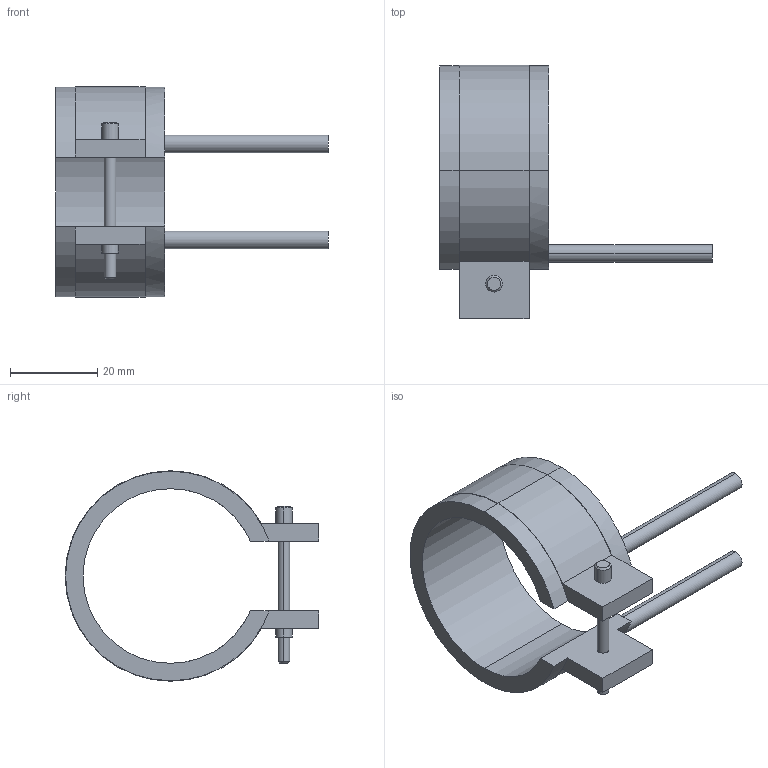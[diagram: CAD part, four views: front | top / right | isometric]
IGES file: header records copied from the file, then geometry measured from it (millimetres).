
Start section: START RECORD GO HERE.
Global section: file name: 14040025.igs; native system: DASSAULT SYSTEMES CATIA V5 R20 - www.3ds.com; preprocessor: CATIA Version 5 Release 20 ; author: Utente; organization: NB04-ASUS; date: 20210331.133348; units: millimetre
Bounding box: 62.5 x 58.1 x 48.2 mm (x, y, z)
Surface area: 9465 mm2 (no closed solid volume)
Topology: 0 solids, 0 shells, 45 faces, 232 edges, 232 vertices
Faces by surface type: revolution 28, plane 17
